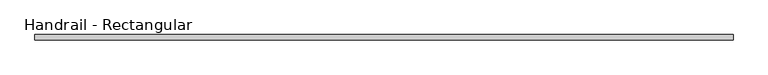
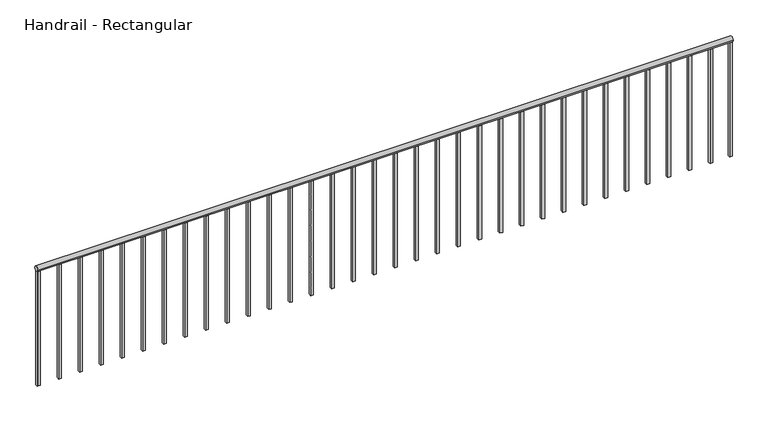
"""IFC4 building model written with IfcOpenShell, lengths in millimetres: railing geometry, Handrail - Rectangular."""

from ifc_helpers import new_model, si_unit, point, frame, frame_2d, origin, place, context, project, spatial, polyline, circle_curve, trimmed, segment, composite_curve, outline, extrude, source, transform, mapped, element, save


def handrail_rectangular_f78fcc5e(model_context):
    return source(origin(), model_context, "Body", "SweptSolid", [
        extrude(outline(composite_curve([segment(trimmed(circle_curve(frame_2d((-35553.1683133, 10039.35)), 19.05), [point((-35572.2183133, 10039.35))], [point((-35534.1183133, 10039.35))], False, "CARTESIAN"), True, "CONTINUOUS"), segment(trimmed(circle_curve(frame_2d((-35553.1683133, 10039.35)), 19.05), [point((-35534.1183133, 10039.35))], [point((-35572.2183133, 10039.35))], False, "CARTESIAN"), True, "CONTINUOUS")], self_intersect=False)), frame((-23747.3839563, 0.0, 0.0), z_axis=(1.0, 0.0, 0.0), x_axis=(0.0, 1.0, 0.0)), (0.0, 0.0, 1.0), 5041.9),
        extrude(outline(polyline([(-23725.1589563, -35543.6433133), (-23725.1589563, -35562.6933133), (-23744.2089563, -35562.6933133), (-23744.2089563, -35543.6433133), (-23725.1589563, -35543.6433133)])), frame((0.0, 0.0, 9144.0), z_axis=(0.0, 0.0, 1.0), x_axis=(1.0, 0.0, 0.0)), (0.0, 0.0, 1.0), 876.3),
        extrude(outline(polyline([(-23572.7589563, -35543.6433133), (-23572.7589563, -35562.6933133), (-23591.8089563, -35562.6933133), (-23591.8089563, -35543.6433133), (-23572.7589563, -35543.6433133)])), frame((0.0, 0.0, 9144.0), z_axis=(0.0, 0.0, 1.0), x_axis=(1.0, 0.0, 0.0)), (0.0, 0.0, 1.0), 876.3),
        extrude(outline(polyline([(-23420.3589563, -35543.6433133), (-23420.3589563, -35562.6933133), (-23439.4089563, -35562.6933133), (-23439.4089563, -35543.6433133), (-23420.3589563, -35543.6433133)])), frame((0.0, 0.0, 9144.0), z_axis=(0.0, 0.0, 1.0), x_axis=(1.0, 0.0, 0.0)), (0.0, 0.0, 1.0), 876.3),
        extrude(outline(polyline([(-23267.9589563, -35543.6433133), (-23267.9589563, -35562.6933133), (-23287.0089563, -35562.6933133), (-23287.0089563, -35543.6433133), (-23267.9589563, -35543.6433133)])), frame((0.0, 0.0, 9144.0), z_axis=(0.0, 0.0, 1.0), x_axis=(1.0, 0.0, 0.0)), (0.0, 0.0, 1.0), 876.3),
        extrude(outline(polyline([(-23115.5589563, -35543.6433133), (-23115.5589563, -35562.6933133), (-23134.6089563, -35562.6933133), (-23134.6089563, -35543.6433133), (-23115.5589563, -35543.6433133)])), frame((0.0, 0.0, 9144.0), z_axis=(0.0, 0.0, 1.0), x_axis=(1.0, 0.0, 0.0)), (0.0, 0.0, 1.0), 876.3),
        extrude(outline(polyline([(-22963.1589563, -35543.6433133), (-22963.1589563, -35562.6933133), (-22982.2089563, -35562.6933133), (-22982.2089563, -35543.6433133), (-22963.1589563, -35543.6433133)])), frame((0.0, 0.0, 9144.0), z_axis=(0.0, 0.0, 1.0), x_axis=(1.0, 0.0, 0.0)), (0.0, 0.0, 1.0), 876.3),
        extrude(outline(polyline([(-22810.7589563, -35543.6433133), (-22810.7589563, -35562.6933133), (-22829.8089563, -35562.6933133), (-22829.8089563, -35543.6433133), (-22810.7589563, -35543.6433133)])), frame((0.0, 0.0, 9144.0), z_axis=(0.0, 0.0, 1.0), x_axis=(1.0, 0.0, 0.0)), (0.0, 0.0, 1.0), 876.3),
        extrude(outline(polyline([(-22658.3589563, -35543.6433133), (-22658.3589563, -35562.6933133), (-22677.4089563, -35562.6933133), (-22677.4089563, -35543.6433133), (-22658.3589563, -35543.6433133)])), frame((0.0, 0.0, 9144.0), z_axis=(0.0, 0.0, 1.0), x_axis=(1.0, 0.0, 0.0)), (0.0, 0.0, 1.0), 876.3),
        extrude(outline(polyline([(-22505.9589563, -35543.6433133), (-22505.9589563, -35562.6933133), (-22525.0089563, -35562.6933133), (-22525.0089563, -35543.6433133), (-22505.9589563, -35543.6433133)])), frame((0.0, 0.0, 9144.0), z_axis=(0.0, 0.0, 1.0), x_axis=(1.0, 0.0, 0.0)), (0.0, 0.0, 1.0), 876.3),
        extrude(outline(polyline([(-22353.5589563, -35543.6433133), (-22353.5589563, -35562.6933133), (-22372.6089563, -35562.6933133), (-22372.6089563, -35543.6433133), (-22353.5589563, -35543.6433133)])), frame((0.0, 0.0, 9144.0), z_axis=(0.0, 0.0, 1.0), x_axis=(1.0, 0.0, 0.0)), (0.0, 0.0, 1.0), 876.3),
        extrude(outline(polyline([(-22201.1589563, -35543.6433133), (-22201.1589563, -35562.6933133), (-22220.2089563, -35562.6933133), (-22220.2089563, -35543.6433133), (-22201.1589563, -35543.6433133)])), frame((0.0, 0.0, 9144.0), z_axis=(0.0, 0.0, 1.0), x_axis=(1.0, 0.0, 0.0)), (0.0, 0.0, 1.0), 876.3),
        extrude(outline(polyline([(-22048.7589563, -35543.6433133), (-22048.7589563, -35562.6933133), (-22067.8089563, -35562.6933133), (-22067.8089563, -35543.6433133), (-22048.7589563, -35543.6433133)])), frame((0.0, 0.0, 9144.0), z_axis=(0.0, 0.0, 1.0), x_axis=(1.0, 0.0, 0.0)), (0.0, 0.0, 1.0), 876.3),
        extrude(outline(polyline([(-21896.3589563, -35543.6433133), (-21896.3589563, -35562.6933133), (-21915.4089563, -35562.6933133), (-21915.4089563, -35543.6433133), (-21896.3589563, -35543.6433133)])), frame((0.0, 0.0, 9144.0), z_axis=(0.0, 0.0, 1.0), x_axis=(1.0, 0.0, 0.0)), (0.0, 0.0, 1.0), 876.3),
        extrude(outline(polyline([(-21743.9589563, -35543.6433133), (-21743.9589563, -35562.6933133), (-21763.0089563, -35562.6933133), (-21763.0089563, -35543.6433133), (-21743.9589563, -35543.6433133)])), frame((0.0, 0.0, 9144.0), z_axis=(0.0, 0.0, 1.0), x_axis=(1.0, 0.0, 0.0)), (0.0, 0.0, 1.0), 876.3),
        extrude(outline(polyline([(-21591.5589563, -35543.6433133), (-21591.5589563, -35562.6933133), (-21610.6089563, -35562.6933133), (-21610.6089563, -35543.6433133), (-21591.5589563, -35543.6433133)])), frame((0.0, 0.0, 9144.0), z_axis=(0.0, 0.0, 1.0), x_axis=(1.0, 0.0, 0.0)), (0.0, 0.0, 1.0), 876.3),
        extrude(outline(polyline([(-21439.1589563, -35543.6433133), (-21439.1589563, -35562.6933133), (-21458.2089563, -35562.6933133), (-21458.2089563, -35543.6433133), (-21439.1589563, -35543.6433133)])), frame((0.0, 0.0, 9144.0), z_axis=(0.0, 0.0, 1.0), x_axis=(1.0, 0.0, 0.0)), (0.0, 0.0, 1.0), 876.3),
        extrude(outline(polyline([(-21286.7589563, -35543.6433133), (-21286.7589563, -35562.6933133), (-21305.8089563, -35562.6933133), (-21305.8089563, -35543.6433133), (-21286.7589563, -35543.6433133)])), frame((0.0, 0.0, 9144.0), z_axis=(0.0, 0.0, 1.0), x_axis=(1.0, 0.0, 0.0)), (0.0, 0.0, 1.0), 876.3),
        extrude(outline(polyline([(-21134.3589563, -35543.6433133), (-21134.3589563, -35562.6933133), (-21153.4089563, -35562.6933133), (-21153.4089563, -35543.6433133), (-21134.3589563, -35543.6433133)])), frame((0.0, 0.0, 9144.0), z_axis=(0.0, 0.0, 1.0), x_axis=(1.0, 0.0, 0.0)), (0.0, 0.0, 1.0), 876.3),
        extrude(outline(polyline([(-20981.9589563, -35543.6433133), (-20981.9589563, -35562.6933133), (-21001.0089563, -35562.6933133), (-21001.0089563, -35543.6433133), (-20981.9589563, -35543.6433133)])), frame((0.0, 0.0, 9144.0), z_axis=(0.0, 0.0, 1.0), x_axis=(1.0, 0.0, 0.0)), (0.0, 0.0, 1.0), 876.3),
        extrude(outline(polyline([(-20829.5589563, -35543.6433133), (-20829.5589563, -35562.6933133), (-20848.6089563, -35562.6933133), (-20848.6089563, -35543.6433133), (-20829.5589563, -35543.6433133)])), frame((0.0, 0.0, 9144.0), z_axis=(0.0, 0.0, 1.0), x_axis=(1.0, 0.0, 0.0)), (0.0, 0.0, 1.0), 876.3),
        extrude(outline(polyline([(-20677.1589563, -35543.6433133), (-20677.1589563, -35562.6933133), (-20696.2089563, -35562.6933133), (-20696.2089563, -35543.6433133), (-20677.1589563, -35543.6433133)])), frame((0.0, 0.0, 9144.0), z_axis=(0.0, 0.0, 1.0), x_axis=(1.0, 0.0, 0.0)), (0.0, 0.0, 1.0), 876.3),
        extrude(outline(polyline([(-20524.7589563, -35543.6433133), (-20524.7589563, -35562.6933133), (-20543.8089563, -35562.6933133), (-20543.8089563, -35543.6433133), (-20524.7589563, -35543.6433133)])), frame((0.0, 0.0, 9144.0), z_axis=(0.0, 0.0, 1.0), x_axis=(1.0, 0.0, 0.0)), (0.0, 0.0, 1.0), 876.3),
        extrude(outline(polyline([(-20372.3589563, -35543.6433133), (-20372.3589563, -35562.6933133), (-20391.4089563, -35562.6933133), (-20391.4089563, -35543.6433133), (-20372.3589563, -35543.6433133)])), frame((0.0, 0.0, 9144.0), z_axis=(0.0, 0.0, 1.0), x_axis=(1.0, 0.0, 0.0)), (0.0, 0.0, 1.0), 876.3),
        extrude(outline(polyline([(-20219.9589563, -35543.6433133), (-20219.9589563, -35562.6933133), (-20239.0089563, -35562.6933133), (-20239.0089563, -35543.6433133), (-20219.9589563, -35543.6433133)])), frame((0.0, 0.0, 9144.0), z_axis=(0.0, 0.0, 1.0), x_axis=(1.0, 0.0, 0.0)), (0.0, 0.0, 1.0), 876.3),
        extrude(outline(polyline([(-20067.5589563, -35543.6433133), (-20067.5589563, -35562.6933133), (-20086.6089563, -35562.6933133), (-20086.6089563, -35543.6433133), (-20067.5589563, -35543.6433133)])), frame((0.0, 0.0, 9144.0), z_axis=(0.0, 0.0, 1.0), x_axis=(1.0, 0.0, 0.0)), (0.0, 0.0, 1.0), 876.3),
        extrude(outline(polyline([(-19915.1589563, -35543.6433133), (-19915.1589563, -35562.6933133), (-19934.2089563, -35562.6933133), (-19934.2089563, -35543.6433133), (-19915.1589563, -35543.6433133)])), frame((0.0, 0.0, 9144.0), z_axis=(0.0, 0.0, 1.0), x_axis=(1.0, 0.0, 0.0)), (0.0, 0.0, 1.0), 876.3),
        extrude(outline(polyline([(-19762.7589563, -35543.6433133), (-19762.7589563, -35562.6933133), (-19781.8089563, -35562.6933133), (-19781.8089563, -35543.6433133), (-19762.7589563, -35543.6433133)])), frame((0.0, 0.0, 9144.0), z_axis=(0.0, 0.0, 1.0), x_axis=(1.0, 0.0, 0.0)), (0.0, 0.0, 1.0), 876.3),
        extrude(outline(polyline([(-19610.3589563, -35543.6433133), (-19610.3589563, -35562.6933133), (-19629.4089563, -35562.6933133), (-19629.4089563, -35543.6433133), (-19610.3589563, -35543.6433133)])), frame((0.0, 0.0, 9144.0), z_axis=(0.0, 0.0, 1.0), x_axis=(1.0, 0.0, 0.0)), (0.0, 0.0, 1.0), 876.3),
        extrude(outline(polyline([(-19457.9589563, -35543.6433133), (-19457.9589563, -35562.6933133), (-19477.0089563, -35562.6933133), (-19477.0089563, -35543.6433133), (-19457.9589563, -35543.6433133)])), frame((0.0, 0.0, 9144.0), z_axis=(0.0, 0.0, 1.0), x_axis=(1.0, 0.0, 0.0)), (0.0, 0.0, 1.0), 876.3),
        extrude(outline(polyline([(-19305.5589563, -35543.6433133), (-19305.5589563, -35562.6933133), (-19324.6089563, -35562.6933133), (-19324.6089563, -35543.6433133), (-19305.5589563, -35543.6433133)])), frame((0.0, 0.0, 9144.0), z_axis=(0.0, 0.0, 1.0), x_axis=(1.0, 0.0, 0.0)), (0.0, 0.0, 1.0), 876.3),
        extrude(outline(polyline([(-19153.1589563, -35543.6433133), (-19153.1589563, -35562.6933133), (-19172.2089563, -35562.6933133), (-19172.2089563, -35543.6433133), (-19153.1589563, -35543.6433133)])), frame((0.0, 0.0, 9144.0), z_axis=(0.0, 0.0, 1.0), x_axis=(1.0, 0.0, 0.0)), (0.0, 0.0, 1.0), 876.3),
        extrude(outline(polyline([(-19000.7589563, -35543.6433133), (-19000.7589563, -35562.6933133), (-19019.8089563, -35562.6933133), (-19019.8089563, -35543.6433133), (-19000.7589563, -35543.6433133)])), frame((0.0, 0.0, 9144.0), z_axis=(0.0, 0.0, 1.0), x_axis=(1.0, 0.0, 0.0)), (0.0, 0.0, 1.0), 876.3),
        extrude(outline(polyline([(-18848.3589563, -35543.6433133), (-18848.3589563, -35562.6933133), (-18867.4089563, -35562.6933133), (-18867.4089563, -35543.6433133), (-18848.3589563, -35543.6433133)])), frame((0.0, 0.0, 9144.0), z_axis=(0.0, 0.0, 1.0), x_axis=(1.0, 0.0, 0.0)), (0.0, 0.0, 1.0), 876.3),
        extrude(outline(polyline([(-23728.3339563, -35543.6433133), (-23728.3339563, -35562.6933133), (-23747.3839563, -35562.6933133), (-23747.3839563, -35543.6433133), (-23728.3339563, -35543.6433133)])), frame((0.0, 0.0, 9144.0), z_axis=(0.0, 0.0, 1.0), x_axis=(1.0, 0.0, 0.0)), (0.0, 0.0, 1.0), 876.3),
        extrude(outline(polyline([(-18705.4839563, -35543.6433133), (-18705.4839563, -35562.6933133), (-18724.5339563, -35562.6933133), (-18724.5339563, -35543.6433133), (-18705.4839563, -35543.6433133)])), frame((0.0, 0.0, 9144.0), z_axis=(0.0, 0.0, 1.0), x_axis=(1.0, 0.0, 0.0)), (0.0, 0.0, 1.0), 876.3),
    ])


if __name__ == "__main__":
    model = new_model("IFC4")
    model_context = context("Model", 3, world=origin())
    ifc_project = project(units=[si_unit("LENGTHUNIT", "METRE", prefix="MILLI")], contexts=[model_context])
    site = spatial("IfcSite", under=ifc_project)
    building = spatial("IfcBuilding", under=site)
    placement = place(None, origin())
    handrail_rectangular_shape = handrail_rectangular_f78fcc5e(model_context)
    element("IfcRailing", 1, ObjectType="Handrail - Rectangular", at=placement, inside=building, context=model_context, shape_type="MappedRepresentation", body=[
        mapped(handrail_rectangular_shape, transform((0.0, 0.0, 0.0), x_axis=(1.0, 0.0, 0.0), y_axis=(0.0, 1.0, 0.0), z_axis=(0.0, 0.0, 1.0))),
    ])
    save(model, "model.ifc")
